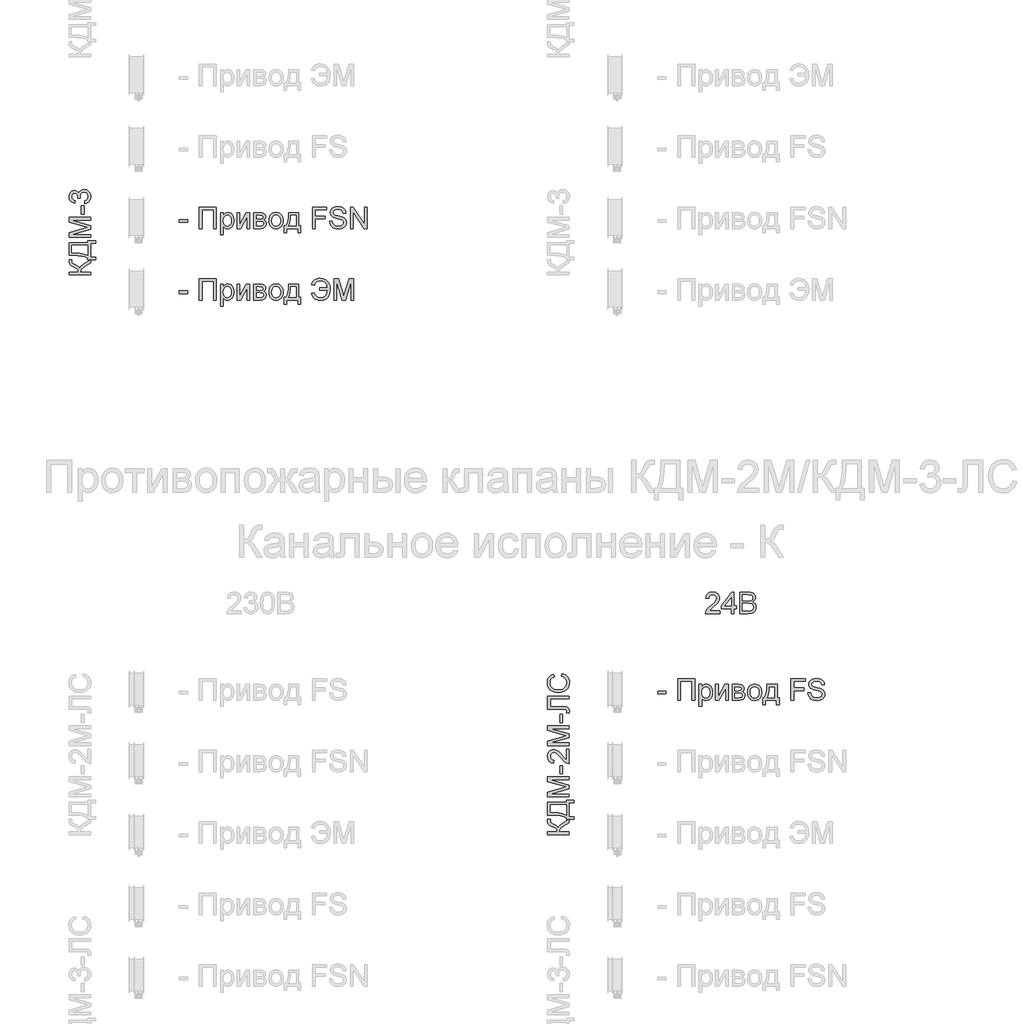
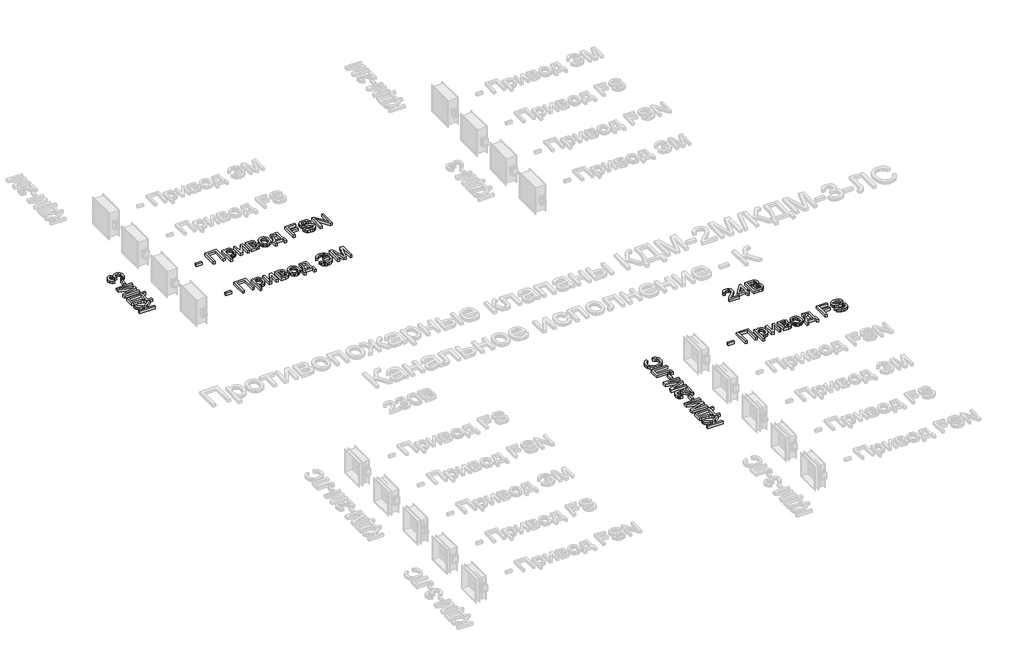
# One storey, part 9 of 23: 6 proxies.
"""IFC4 building model written with IfcOpenShell, lengths in millimetres."""

from ifc_helpers import new_model, si_unit, origin, origin_with_axes, place, context, project, spatial, polyline, outline, extrude, element, save

model = new_model("IFC4")

# Units and contexts
model_context = context("Model", 3, world=origin())
ifc_project = project(units=[si_unit("LENGTHUNIT", "METRE", prefix="MILLI")], contexts=[model_context])

# Site, building, storey
site = spatial("IfcSite", under=ifc_project)
building = spatial("IfcBuilding", under=site)
storey = spatial("IfcBuildingStorey", under=building, Name="Этаж 01", Elevation=0.0)

# Proxies
placement = place(None, origin())
element("IfcBuildingElementProxy", 1, Name="300 мм Arial", ObjectType="300 мм Arial", at=placement, inside=storey, context=model_context, shape_type="SweptSolid", body=[
    extrude(outline(polyline([(2804.7738082, -8434.3206311), (2804.7738082, -8396.6495148), (2922.4960467, -8396.6495148), (2922.4960467, -8434.3206311), (2804.7738082, -8434.3206311)])), origin_with_axes(), (0.0, 0.0, 1.0), 50.0),
    extrude(outline(polyline([(3087.3071805, -8222.4206019), (3322.7516574, -8222.4206019), (3322.7516574, -8523.7895324), (3285.0805411, -8523.7895324), (3285.0805411, -8260.0917182), (3124.9782968, -8260.0917182), (3124.9782968, -8523.7895324), (3087.3071805, -8523.7895324), (3087.3071805, -8222.4206019)])), origin_with_axes(), (0.0, 0.0, 1.0), 50.0),
    extrude(outline(polyline([(3383.9672214, -8608.5495441), (3383.9672214, -8302.4717241), (3421.6383378, -8302.4717241), (3421.6383378, -8339.4070764), (3433.9255964, -8321.1877206), (3447.684383, -8308.173895), (3463.724038, -8300.3655996), (3482.8539017, -8297.7628345), (3508.3297299, -8301.4048663), (3530.6049847, -8312.3309615), (3548.7415671, -8329.8789327), (3561.8013779, -8353.3865922), (3569.6924467, -8381.1432887), (3572.322803, -8411.438371), (3569.3521559, -8443.6556368), (3560.4402145, -8472.469994), (3545.8720875, -8496.4191119), (3525.9328834, -8514.0406595), (3502.7103324, -8524.8839813), (3478.292165, -8528.4984219), (3460.9741201, -8526.0795978), (3445.5138792, -8518.8231254), (3432.2793245, -8507.869439), (3421.6383378, -8494.3589728), (3421.6383378, -8608.5495441), (3383.9672214, -8608.5495441)]), holes=[polyline([(3421.6383378, -8414.8964618), (3425.7126308, -8448.668029), (3437.9355101, -8472.286053), (3455.970925, -8486.1919925), (3477.4828246, -8490.8273056), (3499.3442122, -8486.0264456), (3517.8394795, -8471.6238655), (3530.4486349, -8447.1413187), (3534.6516867, -8412.1005586), (3530.5498024, -8378.5129325), (3518.2441497, -8354.5638146), (3500.236326, -8340.2164168), (3479.027929, -8335.4339508), (3457.7367585, -8340.5199194), (3439.0391561, -8355.7778252), (3425.9885423, -8380.7294215), (3421.6383378, -8414.8964618)])]), origin_with_axes(), (0.0, 0.0, 1.0), 50.0),
    extrude(outline(polyline([(3614.7028088, -8302.4717241), (3652.3739251, -8302.4717241), (3652.3739251, -8471.2559835), (3744.9330351, -8302.4717241), (3793.6406113, -8302.4717241), (3793.6406113, -8523.7895324), (3755.969495, -8523.7895324), (3755.969495, -8356.0353426), (3663.9989962, -8523.7895324), (3614.7028088, -8523.7895324), (3614.7028088, -8302.4717241)])), origin_with_axes(), (0.0, 0.0, 1.0), 50.0),
    extrude(outline(polyline([(3850.1472857, -8302.4717241), (3933.1414638, -8302.4717241), (3959.8221055, -8303.7317199), (3978.6484666, -8307.5117074), (3992.4992238, -8314.6486181), (4004.2530535, -8325.9793836), (4012.2820781, -8340.7406486), (4014.9584196, -8358.1690581), (4013.3397388, -8372.2129533), (4008.4836965, -8384.325468), (4000.3718985, -8394.5617845), (3988.9859507, -8402.9770852), (4002.9286783, -8410.8037746), (4014.296232, -8423.3945359), (4021.856207, -8439.7560876), (4024.3761986, -8458.8951484), (4017.993446, -8487.6083381), (4002.8183137, -8507.8234538), (3978.7956194, -8519.7980127), (3945.8701809, -8523.7895324), (3850.1472857, -8523.7895324), (3850.1472857, -8302.4717241)]), holes=[polyline([(3887.818402, -8486.1184161), (3934.0243806, -8486.1184161), (3959.2059032, -8484.4169618), (3975.0064349, -8479.3125992), (3983.4861149, -8470.0327758), (3986.7050823, -8455.8049397), (3985.0955986, -8446.3779635), (3980.2671474, -8437.6683573), (3972.8543252, -8430.8533433), (3963.4917284, -8427.110144), (3930.3455607, -8424.9028521), (3887.818402, -8424.9028521), (3887.818402, -8486.1184161)]), polyline([(3887.818402, -8387.2317358), (3925.04806, -8387.2317358), (3955.7662065, -8385.3187494), (3970.7022156, -8377.6668039), (3975.6410313, -8371.3392336), (3977.2873033, -8363.8344409), (3974.3994296, -8352.5956459), (3965.7358086, -8345.3667647), (3950.0824297, -8341.4488215), (3926.2252823, -8340.1428404), (3887.818402, -8340.1428404), (3887.818402, -8387.2317358)])]), origin_with_axes(), (0.0, 0.0, 1.0), 50.0),
    extrude(outline(polyline([(4062.047315, -8413.1306282), (4064.0844615, -8384.4680223), (4070.1959011, -8359.7693448), (4080.3816339, -8339.0345959), (4094.6416597, -8322.2637754), (4108.9982546, -8311.5446138), (4124.8447715, -8303.8880698), (4142.1812106, -8299.2941433), (4161.0075717, -8297.7628345), (4181.7906051, -8299.6275364), (4200.5824773, -8305.221642), (4217.3831882, -8314.5451513), (4232.1927377, -8327.5980643), (4244.2799605, -8343.9389227), (4252.9136911, -8363.126268), (4258.0939294, -8385.1601003), (4259.8206756, -8410.0404195), (4256.767255, -8448.0978119), (4247.6069933, -8477.068519), (4232.606605, -8498.7643596), (4212.0328044, -8514.9971527), (4187.5962429, -8525.1231046), (4161.0075717, -8528.4984219), (4139.9210355, -8526.6406178), (4120.9544194, -8521.0672056), (4104.1077233, -8511.7781852), (4089.3809472, -8498.7735567), (4077.4224831, -8482.2740492), (4068.880723, -8462.500392), (4063.755667, -8439.452585), (4062.047315, -8413.1306282)]), holes=[polyline([(4099.7184313, -8413.0570518), (4104.0778329, -8447.1505157), (4117.1560378, -8471.4399245), (4136.8377246, -8485.9804603), (4161.0075717, -8490.8273056), (4185.0670541, -8485.9528692), (4204.7119527, -8471.3295599), (4217.7901576, -8446.7182544), (4222.1495593, -8411.8798294), (4217.7625665, -8378.7796469), (4204.6015881, -8354.821332), (4184.9290984, -8340.2807961), (4161.0075717, -8335.4339508), (4136.8377246, -8340.262402), (4117.1560378, -8354.7477556), (4104.0778329, -8378.981982), (4099.7184313, -8413.0570518)])]), origin_with_axes(), (0.0, 0.0, 1.0), 50.0),
    extrude(outline(polyline([(4335.1629082, -8302.4717241), (4476.4295943, -8302.4717241), (4476.4295943, -8486.1184161), (4504.6829316, -8486.1184161), (4504.6829316, -8585.0050964), (4467.0118152, -8585.0050964), (4467.0118152, -8523.7895324), (4311.6184605, -8523.7895324), (4311.6184605, -8585.0050964), (4273.9473442, -8585.0050964), (4273.9473442, -8486.1184161), (4297.4917919, -8486.1184161), (4314.6075017, -8455.1887373), (4326.5912577, -8414.2710624), (4333.4430598, -8363.3653913), (4335.1629082, -8302.4717241)]), holes=[polyline([(4368.1251349, -8340.1428404), (4365.0349262, -8386.2660455), (4359.2959671, -8425.9697099), (4350.9082576, -8459.2538334), (4339.8717977, -8486.1184161), (4438.758478, -8486.1184161), (4438.758478, -8340.1428404), (4368.1251349, -8340.1428404)])]), origin_with_axes(), (0.0, 0.0, 1.0), 50.0),
    extrude(outline(polyline([(4669.4940654, -8523.7895324), (4669.4940654, -8222.4206019), (4871.9763155, -8222.4206019), (4871.9763155, -8260.0917182), (4707.1651817, -8260.0917182), (4707.1651817, -8349.5606195), (4848.4318678, -8349.5606195), (4848.4318678, -8387.2317358), (4707.1651817, -8387.2317358), (4707.1651817, -8523.7895324), (4669.4940654, -8523.7895324)])), origin_with_axes(), (0.0, 0.0, 1.0), 50.0),
    extrude(outline(polyline([(4909.6474318, -8420.1939625), (4947.3185481, -8420.1939625), (4951.6411616, -8441.0988569), (4959.458654, -8457.901867), (4971.6539421, -8471.2375894), (4989.1099428, -8481.7406203), (5010.4470985, -8488.5556343), (5034.2858518, -8490.8273056), (5055.2735196, -8489.1074573), (5073.6492253, -8483.9479123), (5088.539249, -8475.780932), (5099.0698712, -8465.0387777), (5105.3330621, -8452.7055339), (5107.4207924, -8439.7652847), (5105.857294, -8427.1561293), (5101.1667985, -8416.2576252), (5091.6386549, -8406.9594078), (5075.5622117, -8399.1511124), (5020.7110062, -8384.7669264), (4984.7045559, -8375.2479798), (4961.665946, -8366.1888856), (4942.9131613, -8353.5153509), (4929.6234242, -8338.1562776), (4921.7047642, -8320.4427595), (4919.0652109, -8300.7058905), (4922.3301636, -8278.6421678), (4932.1250217, -8258.0683673), (4948.1922679, -8240.6307607), (4970.2743846, -8227.97562), (4996.7802824, -8220.2776893), (5026.1188715, -8217.7117124), (5057.9038759, -8220.3972509), (5085.7157547, -8228.4538666), (5108.5612266, -8241.7160126), (5125.4470102, -8260.0181418), (5136.1339822, -8282.2198202), (5140.3830192, -8307.1806136), (5102.7119029, -8307.1806136), (5095.7957214, -8284.7030237), (5081.3747472, -8268.4794277), (5058.841975, -8258.6569784), (5027.5903995, -8255.3828287), (4995.60306, -8258.6201902), (4973.658899, -8268.3322749), (4960.9669702, -8282.6244904), (4956.7363272, -8299.6022445), (4959.7345655, -8314.078401), (4968.7292803, -8325.7218662), (4989.9928596, -8336.1329266), (5030.2391499, -8346.7647163), (5071.7730271, -8356.8630771), (5096.8993674, -8365.6738508), (5118.3744789, -8379.340667), (5133.3564731, -8396.2080564), (5142.1580498, -8416.0920783), (5145.0919088, -8438.8087915), (5141.7165914, -8462.0313424), (5131.5906395, -8483.8743359), (5115.1279202, -8502.6731058), (5092.7423008, -8516.7629863), (5065.8225358, -8525.564563), (5035.7573798, -8528.4984219), (4998.8496186, -8525.3346367), (4968.4717629, -8515.8432813), (4944.2743246, -8499.9875673), (4925.907816, -8477.7307066), (4914.1171981, -8450.6178035), (4909.6474318, -8420.1939625)])), origin_with_axes(), (0.0, 0.0, 1.0), 50.0),
    extrude(outline(polyline([(5201.5985832, -8523.7895324), (5201.5985832, -8222.4206019), (5241.9184499, -8222.4206019), (5399.3719438, -8461.1760168), (5399.3719438, -8222.4206019), (5437.0430601, -8222.4206019), (5437.0430601, -8523.7895324), (5396.7231935, -8523.7895324), (5239.2696995, -8284.9605411), (5239.2696995, -8523.7895324), (5201.5985832, -8523.7895324)])), origin_with_axes(), (0.0, 0.0, 1.0), 50.0),
])
element("IfcBuildingElementProxy", 2, Name="300 мм Arial", ObjectType="300 мм Arial", at=placement, inside=storey, context=model_context, shape_type="SweptSolid", body=[
    extrude(outline(polyline([(2804.7738082, -9434.3206311), (2804.7738082, -9396.6495148), (2922.4960467, -9396.6495148), (2922.4960467, -9434.3206311), (2804.7738082, -9434.3206311)])), origin_with_axes(), (0.0, 0.0, 1.0), 50.0),
    extrude(outline(polyline([(3087.3071805, -9222.4206019), (3322.7516574, -9222.4206019), (3322.7516574, -9523.7895324), (3285.0805411, -9523.7895324), (3285.0805411, -9260.0917182), (3124.9782968, -9260.0917182), (3124.9782968, -9523.7895324), (3087.3071805, -9523.7895324), (3087.3071805, -9222.4206019)])), origin_with_axes(), (0.0, 0.0, 1.0), 50.0),
    extrude(outline(polyline([(3383.9672214, -9608.5495441), (3383.9672214, -9302.4717241), (3421.6383378, -9302.4717241), (3421.6383378, -9339.4070764), (3433.9255964, -9321.1877206), (3447.684383, -9308.173895), (3463.724038, -9300.3655996), (3482.8539017, -9297.7628345), (3508.3297299, -9301.4048663), (3530.6049847, -9312.3309615), (3548.7415671, -9329.8789327), (3561.8013779, -9353.3865922), (3569.6924467, -9381.1432887), (3572.322803, -9411.438371), (3569.3521559, -9443.6556368), (3560.4402145, -9472.469994), (3545.8720875, -9496.4191119), (3525.9328834, -9514.0406595), (3502.7103324, -9524.8839813), (3478.292165, -9528.4984219), (3460.9741201, -9526.0795978), (3445.5138792, -9518.8231254), (3432.2793245, -9507.869439), (3421.6383378, -9494.3589728), (3421.6383378, -9608.5495441), (3383.9672214, -9608.5495441)]), holes=[polyline([(3421.6383378, -9414.8964618), (3425.7126308, -9448.668029), (3437.9355101, -9472.286053), (3455.970925, -9486.1919925), (3477.4828246, -9490.8273056), (3499.3442122, -9486.0264456), (3517.8394795, -9471.6238655), (3530.4486349, -9447.1413187), (3534.6516867, -9412.1005586), (3530.5498024, -9378.5129325), (3518.2441497, -9354.5638146), (3500.236326, -9340.2164168), (3479.027929, -9335.4339508), (3457.7367585, -9340.5199194), (3439.0391561, -9355.7778252), (3425.9885423, -9380.7294215), (3421.6383378, -9414.8964618)])]), origin_with_axes(), (0.0, 0.0, 1.0), 50.0),
    extrude(outline(polyline([(3614.7028088, -9302.4717241), (3652.3739251, -9302.4717241), (3652.3739251, -9471.2559835), (3744.9330351, -9302.4717241), (3793.6406113, -9302.4717241), (3793.6406113, -9523.7895324), (3755.969495, -9523.7895324), (3755.969495, -9356.0353426), (3663.9989962, -9523.7895324), (3614.7028088, -9523.7895324), (3614.7028088, -9302.4717241)])), origin_with_axes(), (0.0, 0.0, 1.0), 50.0),
    extrude(outline(polyline([(3850.1472857, -9302.4717241), (3933.1414638, -9302.4717241), (3959.8221055, -9303.7317199), (3978.6484666, -9307.5117074), (3992.4992238, -9314.6486181), (4004.2530535, -9325.9793836), (4012.2820781, -9340.7406486), (4014.9584196, -9358.1690581), (4013.3397388, -9372.2129533), (4008.4836965, -9384.325468), (4000.3718985, -9394.5617845), (3988.9859507, -9402.9770852), (4002.9286783, -9410.8037746), (4014.296232, -9423.3945359), (4021.856207, -9439.7560876), (4024.3761986, -9458.8951484), (4017.993446, -9487.6083381), (4002.8183137, -9507.8234538), (3978.7956194, -9519.7980127), (3945.8701809, -9523.7895324), (3850.1472857, -9523.7895324), (3850.1472857, -9302.4717241)]), holes=[polyline([(3887.818402, -9486.1184161), (3934.0243806, -9486.1184161), (3959.2059032, -9484.4169618), (3975.0064349, -9479.3125992), (3983.4861149, -9470.0327758), (3986.7050823, -9455.8049397), (3985.0955986, -9446.3779635), (3980.2671474, -9437.6683573), (3972.8543252, -9430.8533433), (3963.4917284, -9427.110144), (3930.3455607, -9424.9028521), (3887.818402, -9424.9028521), (3887.818402, -9486.1184161)]), polyline([(3887.818402, -9387.2317358), (3925.04806, -9387.2317358), (3955.7662065, -9385.3187494), (3970.7022156, -9377.6668039), (3975.6410313, -9371.3392336), (3977.2873033, -9363.8344409), (3974.3994296, -9352.5956459), (3965.7358086, -9345.3667647), (3950.0824297, -9341.4488215), (3926.2252823, -9340.1428404), (3887.818402, -9340.1428404), (3887.818402, -9387.2317358)])]), origin_with_axes(), (0.0, 0.0, 1.0), 50.0),
    extrude(outline(polyline([(4062.047315, -9413.1306282), (4064.0844615, -9384.4680223), (4070.1959011, -9359.7693448), (4080.3816339, -9339.0345959), (4094.6416597, -9322.2637754), (4108.9982546, -9311.5446138), (4124.8447715, -9303.8880698), (4142.1812106, -9299.2941433), (4161.0075717, -9297.7628345), (4181.7906051, -9299.6275364), (4200.5824773, -9305.221642), (4217.3831882, -9314.5451513), (4232.1927377, -9327.5980643), (4244.2799605, -9343.9389227), (4252.9136911, -9363.126268), (4258.0939294, -9385.1601003), (4259.8206756, -9410.0404195), (4256.767255, -9448.0978119), (4247.6069933, -9477.068519), (4232.606605, -9498.7643596), (4212.0328044, -9514.9971527), (4187.5962429, -9525.1231046), (4161.0075717, -9528.4984219), (4139.9210355, -9526.6406178), (4120.9544194, -9521.0672056), (4104.1077233, -9511.7781852), (4089.3809472, -9498.7735567), (4077.4224831, -9482.2740492), (4068.880723, -9462.500392), (4063.755667, -9439.452585), (4062.047315, -9413.1306282)]), holes=[polyline([(4099.7184313, -9413.0570518), (4104.0778329, -9447.1505157), (4117.1560378, -9471.4399245), (4136.8377246, -9485.9804603), (4161.0075717, -9490.8273056), (4185.0670541, -9485.9528692), (4204.7119527, -9471.3295599), (4217.7901576, -9446.7182544), (4222.1495593, -9411.8798294), (4217.7625665, -9378.7796469), (4204.6015881, -9354.821332), (4184.9290984, -9340.2807961), (4161.0075717, -9335.4339508), (4136.8377246, -9340.262402), (4117.1560378, -9354.7477556), (4104.0778329, -9378.981982), (4099.7184313, -9413.0570518)])]), origin_with_axes(), (0.0, 0.0, 1.0), 50.0),
    extrude(outline(polyline([(4335.1629082, -9302.4717241), (4476.4295943, -9302.4717241), (4476.4295943, -9486.1184161), (4504.6829316, -9486.1184161), (4504.6829316, -9585.0050964), (4467.0118152, -9585.0050964), (4467.0118152, -9523.7895324), (4311.6184605, -9523.7895324), (4311.6184605, -9585.0050964), (4273.9473442, -9585.0050964), (4273.9473442, -9486.1184161), (4297.4917919, -9486.1184161), (4314.6075017, -9455.1887373), (4326.5912577, -9414.2710624), (4333.4430598, -9363.3653913), (4335.1629082, -9302.4717241)]), holes=[polyline([(4368.1251349, -9340.1428404), (4365.0349262, -9386.2660455), (4359.2959671, -9425.9697099), (4350.9082576, -9459.2538334), (4339.8717977, -9486.1184161), (4438.758478, -9486.1184161), (4438.758478, -9340.1428404), (4368.1251349, -9340.1428404)])]), origin_with_axes(), (0.0, 0.0, 1.0), 50.0),
    extrude(outline(polyline([(4768.3807457, -9349.5606195), (4881.3940946, -9349.5606195), (4878.6947605, -9329.0121108), (4873.0983556, -9310.7030837), (4864.6048801, -9294.6335383), (4853.2143338, -9280.8034746), (4839.1520445, -9269.681942), (4822.64334, -9261.7379902), (4803.6882202, -9256.9716191), (4782.2866851, -9255.3828287), (4751.8674426, -9259.2088014), (4727.6378147, -9270.6867197), (4709.5978014, -9289.8165834), (4697.7474026, -9316.5983927), (4660.0762863, -9307.1806136), (4666.8637091, -9287.2873947), (4676.1895177, -9269.6934383), (4688.053712, -9254.3987444), (4702.4562922, -9241.4033129), (4719.0799598, -9231.0382377), (4737.6074168, -9223.6346125), (4758.0386631, -9219.1924374), (4780.3736987, -9217.7117124), (4821.4477235, -9223.1471689), (4856.3781189, -9239.4535383), (4884.1256184, -9264.2119966), (4903.6509553, -9295.0037196), (4915.211647, -9330.6054997), (4919.0652109, -9369.7941292), (4917.8925871, -9402.0136942), (4912.0938471, -9431.5707132), (4901.6689911, -9458.4651863), (4886.6180189, -9482.6971135), (4866.9777189, -9502.7351859), (4842.7848792, -9517.0480948), (4814.0394998, -9525.6358401), (4780.7415807, -9528.4984219), (4757.0545788, -9526.9533175), (4735.6576422, -9522.3180044), (4716.5507711, -9514.5924825), (4699.7339654, -9503.7767518), (4685.2072251, -9489.8708124), (4672.9705502, -9472.8746642), (4663.0239408, -9452.7883073), (4655.3673968, -9429.6117416), (4693.0385131, -9420.1939625), (4705.7672301, -9451.0960501), (4725.3385523, -9473.1689698), (4751.7524795, -9486.4127217), (4785.0090119, -9490.8273056), (4804.7182898, -9489.0936617), (4822.5697636, -9483.89273), (4838.5634333, -9475.2245105), (4852.699299, -9463.0890032), (4864.3979464, -9447.9460605), (4873.0799615, -9430.2555351), (4878.7453442, -9410.0174268), (4881.3940946, -9387.2317358), (4768.3807457, -9387.2317358), (4768.3807457, -9349.5606195)])), origin_with_axes(), (0.0, 0.0, 1.0), 50.0),
    extrude(outline(polyline([(4970.8629958, -9523.7895324), (4970.8629958, -9222.4206019), (5035.6838034, -9222.4206019), (5097.3408258, -9434.8356659), (5109.7752372, -9479.2022346), (5123.2397182, -9431.156846), (5183.866671, -9222.4206019), (5248.6874786, -9222.4206019), (5248.6874786, -9523.7895324), (5211.0163623, -9523.7895324), (5211.0163623, -9260.0917182), (5135.3062477, -9523.7895324), (5084.2442268, -9523.7895324), (5008.5341121, -9260.0917182), (5008.5341121, -9523.7895324), (4970.8629958, -9523.7895324)])), origin_with_axes(), (0.0, 0.0, 1.0), 50.0),
])
element("IfcBuildingElementProxy", 3, Name="300 мм Arial", ObjectType="300 мм Arial", at=placement, inside=storey, context=model_context, shape_type="SweptSolid", body=[
    extrude(outline(polyline([(1262.355345, -9172.3550656), (1262.355345, -9134.6839493), (1394.2042521, -9134.6839493), (1391.7118516, -9109.1805299), (1384.23465, -9092.5614608), (1366.6406936, -9079.1245709), (1333.7980285, -9063.1676894), (1291.6755401, -9042.3823567), (1280.2620012, -9032.3575723), (1270.8166309, -9018.837909), (1264.4706665, -9002.7890569), (1262.355345, -8985.1767064), (1262.7968034, -8960.4550363), (1300.4679197, -8960.4550363), (1300.2471905, -8968.7691694), (1300.0264613, -8977.0833025), (1302.2889356, -8994.3369681), (1309.0763584, -9006.5138621), (1323.3317857, -9016.998499), (1347.8511207, -9028.8810874), (1378.3853263, -9043.4584115), (1395.0871689, -9055.5525321), (1410.6853655, -9081.5617892), (1416.8933742, -9066.9706695), (1427.7183019, -9052.4807174), (1463.2189144, -9023.8043159), (1563.7242755, -8960.4550363), (1563.7242755, -9004.1594174), (1478.817111, -9057.7230359), (1451.5846463, -9078.407201), (1434.4873306, -9095.4309404), (1425.4650246, -9112.8409558), (1422.4575893, -9134.6839493), (1563.7242755, -9134.6839493), (1563.7242755, -9172.3550656), (1262.355345, -9172.3550656)])), origin_with_axes(), (0.0, 0.0, 1.0), 50.0),
    extrude(outline(polyline([(1262.355345, -8899.2394723), (1262.355345, -8720.3016699), (1526.0531592, -8720.3016699), (1526.0531592, -8692.0483327), (1634.3576186, -8692.0483327), (1634.3576186, -8729.719449), (1563.7242755, -8729.719449), (1563.7242755, -8922.78392), (1634.3576186, -8922.78392), (1634.3576186, -8960.4550363), (1563.7242755, -8960.4550363), (1526.0531592, -8960.4550363), (1526.0531592, -8936.9105887), (1491.8815204, -8920.4294753), (1443.8131392, -8908.6572514), (1381.8480156, -8901.5939171), (1305.9861497, -8899.2394723), (1262.355345, -8899.2394723)]), holes=[polyline([(1300.0264613, -8757.9727862), (1300.0264613, -8861.568356), (1315.1831995, -8861.568356), (1418.4108874, -8869.2203015), (1478.0629529, -8880.551067), (1526.0531592, -8899.2394723), (1526.0531592, -8757.9727862), (1300.0264613, -8757.9727862)])]), origin_with_axes(), (0.0, 0.0, 1.0), 50.0),
    extrude(outline(polyline([(1563.7242755, -8644.9594373), (1262.355345, -8644.9594373), (1262.355345, -8580.1386297), (1474.7704091, -8518.4816073), (1519.1369777, -8506.0471959), (1471.0915891, -8492.5827149), (1262.355345, -8431.9557621), (1262.355345, -8367.1349545), (1563.7242755, -8367.1349545), (1563.7242755, -8404.8060708), (1300.0264613, -8404.8060708), (1563.7242755, -8480.5161854), (1563.7242755, -8531.5782064), (1300.0264613, -8607.288321), (1563.7242755, -8607.288321), (1563.7242755, -8644.9594373)])), origin_with_axes(), (0.0, 0.0, 1.0), 50.0),
    extrude(outline(polyline([(1474.2553743, -8324.7549487), (1436.584258, -8324.7549487), (1436.584258, -8207.0327102), (1474.2553743, -8207.0327102), (1474.2553743, -8324.7549487)])), origin_with_axes(), (0.0, 0.0, 1.0), 50.0),
    extrude(outline(polyline([(1483.6731533, -8174.0704835), (1478.9642638, -8136.3993671), (1502.6374702, -8127.9656724), (1518.6219429, -8115.6140344), (1527.7270223, -8098.7374479), (1530.7620487, -8076.7289075), (1526.5865881, -8050.9035915), (1514.0602061, -8030.9643873), (1495.3718008, -8018.2172762), (1472.7102699, -8013.9682392), (1451.1983702, -8018.180488), (1433.7515666, -8030.8172345), (1422.1908749, -8049.9470983), (1418.337311, -8073.6386988), (1422.4575893, -8100.052626), (1384.786473, -8095.8587713), (1385.2279314, -8089.8255066), (1382.5239988, -8067.2559462), (1374.4122008, -8047.0776187), (1360.6902023, -8032.8405855), (1341.1556684, -8028.0949078), (1324.8860872, -8031.5346044), (1311.6883206, -8041.8536944), (1302.9419262, -8057.5990438), (1300.0264613, -8077.3175187), (1302.9695173, -8097.0727819), (1311.7986852, -8113.2228015), (1326.513965, -8125.0134194), (1347.1153567, -8131.6904776), (1342.4064672, -8169.3615939), (1308.5797177, -8158.2699518), (1283.3246188, -8138.5330827), (1267.5976635, -8111.5305443), (1262.355345, -8078.6418939), (1264.9397161, -8054.9594905), (1272.6928291, -8033.2084675), (1284.9249054, -8014.86955), (1300.9461663, -8001.4234631), (1319.4046454, -7993.1737094), (1338.9483764, -7990.4237915), (1357.1585352, -7993.0357536), (1373.6764368, -8000.8716401), (1387.7479231, -8013.8210864), (1398.6188361, -8031.7737277), (1408.1469797, -8008.1924918), (1424.3705757, -7990.7180971), (1446.4067072, -7979.9023664), (1473.3724575, -7976.2971228), (1492.4839271, -7978.0997446), (1510.0870806, -7983.50761), (1526.1819179, -7992.5207188), (1540.768439, -8005.1390713), (1552.8717566, -8020.5119401), (1561.5169835, -8037.7885983), (1566.7041196, -8056.9690459), (1568.433165, -8078.0532827), (1566.9570385, -8097.1095701), (1562.528659, -8114.4736002), (1555.1480265, -8130.1453732), (1544.8151409, -8144.124889), (1532.1370077, -8155.8465291), (1517.720632, -8164.7446749), (1501.5660139, -8170.8193263), (1483.6731533, -8174.0704835)])), origin_with_axes(), (0.0, 0.0, 1.0), 50.0),
])
element("IfcBuildingElementProxy", 4, Name="300 мм Arial", ObjectType="300 мм Arial", at=placement, inside=storey, context=model_context, shape_type="SweptSolid", body=[
    extrude(outline(polyline([(9504.7738082, -15034.3206311), (9504.7738082, -14996.6495148), (9622.4960467, -14996.6495148), (9622.4960467, -15034.3206311), (9504.7738082, -15034.3206311)])), origin_with_axes(), (0.0, 0.0, 1.0), 50.0),
    extrude(outline(polyline([(9787.3071805, -14822.4206019), (10022.7516574, -14822.4206019), (10022.7516574, -15123.7895324), (9985.0805411, -15123.7895324), (9985.0805411, -14860.0917182), (9824.9782968, -14860.0917182), (9824.9782968, -15123.7895324), (9787.3071805, -15123.7895324), (9787.3071805, -14822.4206019)])), origin_with_axes(), (0.0, 0.0, 1.0), 50.0),
    extrude(outline(polyline([(10083.9672214, -15208.5495441), (10083.9672214, -14902.4717241), (10121.6383378, -14902.4717241), (10121.6383378, -14939.4070764), (10133.9255964, -14921.1877206), (10147.684383, -14908.173895), (10163.724038, -14900.3655996), (10182.8539017, -14897.7628345), (10208.3297299, -14901.4048663), (10230.6049847, -14912.3309615), (10248.7415671, -14929.8789327), (10261.8013779, -14953.3865922), (10269.6924467, -14981.1432887), (10272.322803, -15011.438371), (10269.3521559, -15043.6556368), (10260.4402145, -15072.469994), (10245.8720875, -15096.4191119), (10225.9328834, -15114.0406595), (10202.7103324, -15124.8839813), (10178.292165, -15128.4984219), (10160.9741201, -15126.0795978), (10145.5138792, -15118.8231254), (10132.2793245, -15107.869439), (10121.6383378, -15094.3589728), (10121.6383378, -15208.5495441), (10083.9672214, -15208.5495441)]), holes=[polyline([(10121.6383378, -15014.8964618), (10125.7126308, -15048.668029), (10137.9355101, -15072.286053), (10155.970925, -15086.1919925), (10177.4828246, -15090.8273056), (10199.3442122, -15086.0264456), (10217.8394795, -15071.6238655), (10230.4486349, -15047.1413187), (10234.6516867, -15012.1005586), (10230.5498024, -14978.5129325), (10218.2441497, -14954.5638146), (10200.236326, -14940.2164168), (10179.027929, -14935.4339508), (10157.7367585, -14940.5199194), (10139.0391561, -14955.7778252), (10125.9885423, -14980.7294215), (10121.6383378, -15014.8964618)])]), origin_with_axes(), (0.0, 0.0, 1.0), 50.0),
    extrude(outline(polyline([(10314.7028088, -14902.4717241), (10352.3739251, -14902.4717241), (10352.3739251, -15071.2559835), (10444.9330351, -14902.4717241), (10493.6406113, -14902.4717241), (10493.6406113, -15123.7895324), (10455.969495, -15123.7895324), (10455.969495, -14956.0353426), (10363.9989962, -15123.7895324), (10314.7028088, -15123.7895324), (10314.7028088, -14902.4717241)])), origin_with_axes(), (0.0, 0.0, 1.0), 50.0),
    extrude(outline(polyline([(10550.1472857, -14902.4717241), (10633.1414638, -14902.4717241), (10659.8221055, -14903.7317199), (10678.6484666, -14907.5117074), (10692.4992238, -14914.6486181), (10704.2530535, -14925.9793836), (10712.2820781, -14940.7406486), (10714.9584196, -14958.1690581), (10713.3397388, -14972.2129533), (10708.4836965, -14984.325468), (10700.3718985, -14994.5617845), (10688.9859507, -15002.9770852), (10702.9286783, -15010.8037746), (10714.296232, -15023.3945359), (10721.856207, -15039.7560876), (10724.3761986, -15058.8951484), (10717.993446, -15087.6083381), (10702.8183137, -15107.8234538), (10678.7956194, -15119.7980127), (10645.8701809, -15123.7895324), (10550.1472857, -15123.7895324), (10550.1472857, -14902.4717241)]), holes=[polyline([(10587.818402, -15086.1184161), (10634.0243806, -15086.1184161), (10659.2059032, -15084.4169618), (10675.0064349, -15079.3125992), (10683.4861149, -15070.0327758), (10686.7050823, -15055.8049397), (10685.0955986, -15046.3779635), (10680.2671474, -15037.6683573), (10672.8543252, -15030.8533433), (10663.4917284, -15027.110144), (10630.3455607, -15024.9028521), (10587.818402, -15024.9028521), (10587.818402, -15086.1184161)]), polyline([(10587.818402, -14987.2317358), (10625.04806, -14987.2317358), (10655.7662065, -14985.3187494), (10670.7022156, -14977.6668039), (10675.6410313, -14971.3392336), (10677.2873033, -14963.8344409), (10674.3994296, -14952.5956459), (10665.7358086, -14945.3667647), (10650.0824297, -14941.4488215), (10626.2252823, -14940.1428404), (10587.818402, -14940.1428404), (10587.818402, -14987.2317358)])]), origin_with_axes(), (0.0, 0.0, 1.0), 50.0),
    extrude(outline(polyline([(10762.047315, -15013.1306282), (10764.0844615, -14984.4680223), (10770.1959011, -14959.7693448), (10780.3816339, -14939.0345959), (10794.6416597, -14922.2637754), (10808.9982546, -14911.5446138), (10824.8447715, -14903.8880698), (10842.1812106, -14899.2941433), (10861.0075717, -14897.7628345), (10881.7906051, -14899.6275364), (10900.5824773, -14905.221642), (10917.3831882, -14914.5451513), (10932.1927377, -14927.5980643), (10944.2799605, -14943.9389227), (10952.9136911, -14963.126268), (10958.0939294, -14985.1601003), (10959.8206756, -15010.0404195), (10956.767255, -15048.0978119), (10947.6069933, -15077.068519), (10932.606605, -15098.7643596), (10912.0328044, -15114.9971527), (10887.5962429, -15125.1231046), (10861.0075717, -15128.4984219), (10839.9210355, -15126.6406178), (10820.9544194, -15121.0672056), (10804.1077233, -15111.7781852), (10789.3809472, -15098.7735567), (10777.4224831, -15082.2740492), (10768.880723, -15062.500392), (10763.755667, -15039.452585), (10762.047315, -15013.1306282)]), holes=[polyline([(10799.7184313, -15013.0570518), (10804.0778329, -15047.1505157), (10817.1560378, -15071.4399245), (10836.8377246, -15085.9804603), (10861.0075717, -15090.8273056), (10885.0670541, -15085.9528692), (10904.7119527, -15071.3295599), (10917.7901576, -15046.7182544), (10922.1495593, -15011.8798294), (10917.7625665, -14978.7796469), (10904.6015881, -14954.821332), (10884.9290984, -14940.2807961), (10861.0075717, -14935.4339508), (10836.8377246, -14940.262402), (10817.1560378, -14954.7477556), (10804.0778329, -14978.981982), (10799.7184313, -15013.0570518)])]), origin_with_axes(), (0.0, 0.0, 1.0), 50.0),
    extrude(outline(polyline([(11035.1629082, -14902.4717241), (11176.4295943, -14902.4717241), (11176.4295943, -15086.1184161), (11204.6829316, -15086.1184161), (11204.6829316, -15185.0050964), (11167.0118152, -15185.0050964), (11167.0118152, -15123.7895324), (11011.6184605, -15123.7895324), (11011.6184605, -15185.0050964), (10973.9473442, -15185.0050964), (10973.9473442, -15086.1184161), (10997.4917919, -15086.1184161), (11014.6075017, -15055.1887373), (11026.5912577, -15014.2710624), (11033.4430598, -14963.3653913), (11035.1629082, -14902.4717241)]), holes=[polyline([(11068.1251349, -14940.1428404), (11065.0349262, -14986.2660455), (11059.2959671, -15025.9697099), (11050.9082576, -15059.2538334), (11039.8717977, -15086.1184161), (11138.758478, -15086.1184161), (11138.758478, -14940.1428404), (11068.1251349, -14940.1428404)])]), origin_with_axes(), (0.0, 0.0, 1.0), 50.0),
    extrude(outline(polyline([(11369.4940654, -15123.7895324), (11369.4940654, -14822.4206019), (11571.9763155, -14822.4206019), (11571.9763155, -14860.0917182), (11407.1651817, -14860.0917182), (11407.1651817, -14949.5606195), (11548.4318678, -14949.5606195), (11548.4318678, -14987.2317358), (11407.1651817, -14987.2317358), (11407.1651817, -15123.7895324), (11369.4940654, -15123.7895324)])), origin_with_axes(), (0.0, 0.0, 1.0), 50.0),
    extrude(outline(polyline([(11609.6474318, -15020.1939625), (11647.3185481, -15020.1939625), (11651.6411616, -15041.0988569), (11659.458654, -15057.901867), (11671.6539421, -15071.2375894), (11689.1099428, -15081.7406203), (11710.4470985, -15088.5556343), (11734.2858518, -15090.8273056), (11755.2735196, -15089.1074573), (11773.6492253, -15083.9479123), (11788.539249, -15075.780932), (11799.0698712, -15065.0387777), (11805.3330621, -15052.7055339), (11807.4207924, -15039.7652847), (11805.857294, -15027.1561293), (11801.1667985, -15016.2576252), (11791.6386549, -15006.9594078), (11775.5622117, -14999.1511124), (11720.7110062, -14984.7669264), (11684.7045559, -14975.2479798), (11661.665946, -14966.1888856), (11642.9131613, -14953.5153509), (11629.6234242, -14938.1562776), (11621.7047642, -14920.4427595), (11619.0652109, -14900.7058905), (11622.3301636, -14878.6421678), (11632.1250217, -14858.0683673), (11648.1922679, -14840.6307607), (11670.2743846, -14827.97562), (11696.7802824, -14820.2776893), (11726.1188715, -14817.7117124), (11757.9038759, -14820.3972509), (11785.7157547, -14828.4538666), (11808.5612266, -14841.7160126), (11825.4470102, -14860.0181418), (11836.1339822, -14882.2198202), (11840.3830192, -14907.1806136), (11802.7119029, -14907.1806136), (11795.7957214, -14884.7030237), (11781.3747472, -14868.4794277), (11758.841975, -14858.6569784), (11727.5903995, -14855.3828287), (11695.60306, -14858.6201902), (11673.658899, -14868.3322749), (11660.9669702, -14882.6244904), (11656.7363272, -14899.6022445), (11659.7345655, -14914.078401), (11668.7292803, -14925.7218662), (11689.9928596, -14936.1329266), (11730.2391499, -14946.7647163), (11771.7730271, -14956.8630771), (11796.8993674, -14965.6738508), (11818.3744789, -14979.340667), (11833.3564731, -14996.2080564), (11842.1580498, -15016.0920783), (11845.0919088, -15038.8087915), (11841.7165914, -15062.0313424), (11831.5906395, -15083.8743359), (11815.1279202, -15102.6731058), (11792.7423008, -15116.7629863), (11765.8225358, -15125.564563), (11735.7573798, -15128.4984219), (11698.8496186, -15125.3346367), (11668.4717629, -15115.8432813), (11644.2743246, -15099.9875673), (11625.907816, -15077.7307066), (11614.1171981, -15050.6178035), (11609.6474318, -15020.1939625)])), origin_with_axes(), (0.0, 0.0, 1.0), 50.0),
])
element("IfcBuildingElementProxy", 5, Name="300 мм Arial", ObjectType="300 мм Arial", at=placement, inside=storey, context=model_context, shape_type="SweptSolid", body=[
    extrude(outline(polyline([(7962.355345, -17002.4984014), (7962.355345, -16964.8272851), (8094.2042521, -16964.8272851), (8091.7118516, -16939.3238658), (8084.23465, -16922.7047967), (8066.6406936, -16909.2679068), (8033.7980285, -16893.3110252), (7991.6755401, -16872.5256925), (7980.2620012, -16862.5009082), (7970.8166309, -16848.9812448), (7964.4706665, -16832.9323928), (7962.355345, -16815.3200423), (7962.7968034, -16790.5983722), (8000.4679197, -16790.5983722), (8000.2471905, -16798.9125053), (8000.0264613, -16807.2266384), (8002.2889356, -16824.4803039), (8009.0763584, -16836.657198), (8023.3317857, -16847.1418349), (8047.8511207, -16859.0244233), (8078.3853263, -16873.6017474), (8095.0871689, -16885.6958679), (8110.6853655, -16911.705125), (8116.8933742, -16897.1140054), (8127.7183019, -16882.6240533), (8163.2189144, -16853.9476518), (8263.7242755, -16790.5983722), (8263.7242755, -16834.3027532), (8178.817111, -16887.8663717), (8151.5846463, -16908.5505369), (8134.4873306, -16925.5742762), (8125.4650246, -16942.9842916), (8122.4575893, -16964.8272851), (8263.7242755, -16964.8272851), (8263.7242755, -17002.4984014), (7962.355345, -17002.4984014)])), origin_with_axes(), (0.0, 0.0, 1.0), 50.0),
    extrude(outline(polyline([(7962.355345, -16729.3828082), (7962.355345, -16550.4450057), (8226.0531592, -16550.4450057), (8226.0531592, -16522.1916685), (8334.3576186, -16522.1916685), (8334.3576186, -16559.8627848), (8263.7242755, -16559.8627848), (8263.7242755, -16752.9272559), (8334.3576186, -16752.9272559), (8334.3576186, -16790.5983722), (8263.7242755, -16790.5983722), (8226.0531592, -16790.5983722), (8226.0531592, -16767.0539245), (8191.8815204, -16750.5728111), (8143.8131392, -16738.8005873), (8081.8480156, -16731.737253), (8005.9861497, -16729.3828082), (7962.355345, -16729.3828082)]), holes=[polyline([(8000.0264613, -16588.116122), (8000.0264613, -16691.7116919), (8015.1831995, -16691.7116919), (8118.4108874, -16699.3636374), (8178.0629529, -16710.6944028), (8226.0531592, -16729.3828082), (8226.0531592, -16588.116122), (8000.0264613, -16588.116122)])]), origin_with_axes(), (0.0, 0.0, 1.0), 50.0),
    extrude(outline(polyline([(8263.7242755, -16475.1027731), (7962.355345, -16475.1027731), (7962.355345, -16410.2819656), (8174.7704091, -16348.6249432), (8219.1369777, -16336.1905318), (8171.0915891, -16322.7260507), (7962.355345, -16262.0990979), (7962.355345, -16197.2782904), (8263.7242755, -16197.2782904), (8263.7242755, -16234.9494067), (8000.0264613, -16234.9494067), (8263.7242755, -16310.6595213), (8263.7242755, -16361.7215422), (8000.0264613, -16437.4316568), (8263.7242755, -16437.4316568), (8263.7242755, -16475.1027731)])), origin_with_axes(), (0.0, 0.0, 1.0), 50.0),
    extrude(outline(polyline([(8174.2553743, -16154.8982845), (8136.584258, -16154.8982845), (8136.584258, -16037.1760461), (8174.2553743, -16037.1760461), (8174.2553743, -16154.8982845)])), origin_with_axes(), (0.0, 0.0, 1.0), 50.0),
    extrude(outline(polyline([(8226.0531592, -15811.1493482), (8263.7242755, -15811.1493482), (8263.7242755, -16008.9227088), (8237.7518066, -16004.8760069), (8217.4539175, -15995.5869865), (8197.7630338, -15981.9937468), (8177.152445, -15962.3304542), (8154.0954409, -15934.831275), (8117.9878231, -15894.1803145), (8091.3347725, -15869.7897383), (8069.7033112, -15857.5944501), (8048.6604611, -15853.5293541), (8029.7973118, -15857.3645239), (8014.1163418, -15868.8700333), (8003.5489314, -15886.5559602), (8000.0264613, -15908.9323826), (8003.466158, -15932.430845), (8013.785248, -15950.686989), (8030.1743908, -15962.4684099), (8051.8242463, -15966.542703), (8047.1153567, -16004.2138193), (8010.6766451, -15995.0811488), (7996.1407078, -15986.5347902), (7984.0603828, -15975.3350827), (7974.5644288, -15961.7395437), (7967.7816045, -15946.0056906), (7962.355345, -15908.1230422), (7963.8636612, -15887.9332184), (7968.3886098, -15869.9644822), (7975.9301907, -15854.2168336), (7986.4884039, -15840.6902724), (7999.2815003, -15829.8262573), (8013.5277306, -15822.0662464), (8029.2270947, -15817.4102399), (8046.3795927, -15815.8582378), (8064.3966134, -15817.5321009), (8082.1009345, -15822.5536901), (8100.1087581, -15831.4656314), (8119.0362868, -15844.8105508), (8141.6334383, -15866.0833272), (8170.6501307, -15898.7788395), (8206.8865072, -15942.1153385), (8226.0531592, -15959.1114867), (8226.0531592, -15811.1493482)])), origin_with_axes(), (0.0, 0.0, 1.0), 50.0),
    extrude(outline(polyline([(8263.7242755, -15759.3515633), (7962.355345, -15759.3515633), (7962.355345, -15694.5307558), (8174.7704091, -15632.8737334), (8219.1369777, -15620.4393219), (8171.0915891, -15606.9748409), (7962.355345, -15546.3478881), (7962.355345, -15481.5270806), (8263.7242755, -15481.5270806), (8263.7242755, -15519.1981969), (8000.0264613, -15519.1981969), (8263.7242755, -15594.9083115), (8263.7242755, -15645.9703324), (8000.0264613, -15721.680447), (8263.7242755, -15721.680447), (8263.7242755, -15759.3515633)])), origin_with_axes(), (0.0, 0.0, 1.0), 50.0),
    extrude(outline(polyline([(8174.2553743, -15439.1470747), (8136.584258, -15439.1470747), (8136.584258, -15321.4248363), (8174.2553743, -15321.4248363), (8174.2553743, -15439.1470747)])), origin_with_axes(), (0.0, 0.0, 1.0), 50.0),
    extrude(outline(polyline([(7962.355345, -15250.7914932), (7962.355345, -15067.1448012), (8263.7242755, -15067.1448012), (8263.7242755, -15104.8159175), (8000.0264613, -15104.8159175), (8000.0264613, -15213.1203769), (8153.8011353, -15213.1203769), (8222.4111274, -15217.4981726), (8241.7985086, -15224.2763984), (8256.3298474, -15235.8554842), (8265.4073356, -15251.7111982), (8268.433165, -15271.3193085), (8263.7242755, -15302.5892781), (8226.0531592, -15297.8803886), (8230.7620487, -15279.8541708), (8228.23286, -15267.1162567), (8220.6452939, -15258.0387685), (8203.6767368, -15252.603312), (8173.0045755, -15250.7914932), (7962.355345, -15250.7914932)])), origin_with_axes(), (0.0, 0.0, 1.0), 50.0),
    extrude(outline(polyline([(8156.5970385, -14789.3203184), (8166.3091232, -14751.6492021), (8189.7363085, -14759.1034111), (8210.2066422, -14769.0316264), (8227.7201245, -14781.4338482), (8242.2767552, -14796.3100763), (8253.7201845, -14813.3246186), (8261.8940626, -14832.1417827), (8266.7983894, -14852.7615685), (8268.433165, -14875.1839761), (8263.4851522, -14918.8791601), (8248.6411137, -14953.5796293), (8224.4160843, -14980.1774975), (8191.3250988, -14999.5648787), (8152.4215778, -15011.4014819), (8110.7589419, -15015.3470163), (8066.8154376, -15010.8864471), (8028.8684098, -14997.5047395), (7998.122672, -14975.9008693), (7975.7830379, -14946.7738124), (7962.1806011, -14912.229693), (7957.6464555, -14874.3746357), (7963.5141733, -14833.0706847), (7970.8488206, -14815.1019485), (7981.1173268, -14798.9220385), (7994.0483789, -14784.7976692), (8009.370664, -14772.9955549), (8047.1889331, -14756.3580917), (8056.1652538, -14794.029208), (8028.6936658, -14807.0890188), (8009.8489106, -14824.9312956), (7998.9504065, -14847.7767675), (7995.3175718, -14875.8461637), (7999.3458797, -14908.2013852), (8011.4308032, -14934.7808593), (8030.3031495, -14954.9499897), (8054.6937258, -14968.0741799), (8082.2664814, -14975.2754699), (8110.6853655, -14977.6759), (8145.4870022, -14974.8340115), (8175.5797494, -14966.3083463), (8199.8139759, -14951.7770075), (8217.0400503, -14930.9180984), (8227.3315491, -14905.9113198), (8230.7620487, -14878.9363725), (8226.0899474, -14847.4916589), (8212.0736434, -14821.2892638), (8188.8602895, -14801.5064095), (8156.5970385, -14789.3203184)])), origin_with_axes(), (0.0, 0.0, 1.0), 50.0),
])
element("IfcBuildingElementProxy", 6, Name="300 мм Arial", ObjectType="300 мм Arial", at=placement, inside=storey, context=model_context, shape_type="SweptSolid", body=[
    extrude(outline(polyline([(10372.9728635, -13873.066365), (10372.9728635, -13910.7374813), (10175.1995029, -13910.7374813), (10179.2462048, -13884.7650124), (10188.5352252, -13864.4671233), (10202.1284649, -13844.7762395), (10221.7917576, -13824.1656508), (10249.2909367, -13801.1086467), (10289.9418972, -13765.0010289), (10314.3324735, -13738.3479783), (10326.5277616, -13716.716517), (10330.5928576, -13695.6736669), (10326.7576878, -13676.8105176), (10315.2521784, -13661.1295476), (10297.5662515, -13650.5621372), (10275.1898292, -13647.0396671), (10251.6913667, -13650.4793638), (10233.4352227, -13660.7984538), (10221.6538018, -13677.1875966), (10217.5795087, -13698.8374521), (10179.9083924, -13694.1285625), (10189.041063, -13657.6898509), (10197.5874216, -13643.1539136), (10208.787129, -13631.0735886), (10222.382668, -13621.5776346), (10238.1165211, -13614.7948103), (10275.9991696, -13609.3685508), (10296.1889933, -13610.876867), (10314.1577295, -13615.4018156), (10329.9053782, -13622.9433965), (10343.4319393, -13633.5016097), (10354.2959544, -13646.2947061), (10362.0559653, -13660.5409364), (10366.7119718, -13676.2403005), (10368.263974, -13693.3927985), (10366.5901109, -13711.4098192), (10361.5685216, -13729.1141403), (10352.6565803, -13747.1219639), (10339.3116609, -13766.0494926), (10318.0388846, -13788.6466441), (10285.3433722, -13817.6633365), (10242.0068732, -13853.899713), (10225.010725, -13873.066365), (10372.9728635, -13873.066365)])), origin_with_axes(), (0.0, 0.0, 1.0), 50.0),
    extrude(outline(polyline([(10533.0751078, -13910.7374813), (10533.0751078, -13840.1041382), (10396.5173112, -13840.1041382), (10396.5173112, -13802.4330219), (10542.4928869, -13614.0774404), (10570.7462241, -13614.0774404), (10570.7462241, -13802.4330219), (10608.4173404, -13802.4330219), (10608.4173404, -13840.1041382), (10570.7462241, -13840.1041382), (10570.7462241, -13910.7374813), (10533.0751078, -13910.7374813)]), holes=[polyline([(10533.0751078, -13802.4330219), (10533.0751078, -13686.0351586), (10442.8704426, -13802.4330219), (10533.0751078, -13802.4330219)])]), origin_with_axes(), (0.0, 0.0, 1.0), 50.0),
    extrude(outline(polyline([(10655.5062358, -13910.7374813), (10655.5062358, -13609.3685508), (10770.5061475, -13609.3685508), (10802.134802, -13611.5850399), (10826.8288809, -13618.2345069), (10845.7564096, -13629.4824989), (10860.0854133, -13645.4945628), (10869.1077192, -13664.3301209), (10872.1151545, -13684.0485959), (10869.5859658, -13702.1943753), (10861.9983997, -13719.2549028), (10849.2972738, -13734.1817147), (10831.4274059, -13745.9263474), (10852.7737586, -13757.0731719), (10868.5466992, -13774.0325319), (10878.286375, -13795.6823873), (10881.5329336, -13820.9006981), (10879.3164446, -13841.915957), (10872.6669775, -13861.4045057), (10862.7433607, -13877.9775896), (10850.7044224, -13890.2464542), (10835.9615515, -13899.1308043), (10817.9261367, -13905.5503452), (10769.6232307, -13910.7374813), (10655.5062358, -13910.7374813)]), holes=[polyline([(10693.1773521, -13873.066365), (10770.4325711, -13873.066365), (10798.3916027, -13871.594837), (10822.046415, -13863.3910685), (10837.718188, -13846.6524377), (10842.32591, -13834.8250316), (10843.8618173, -13821.2685801), (10842.0591955, -13805.5232307), (10836.6513302, -13791.9851732), (10827.20596, -13781.3993688), (10813.2908235, -13774.5107785), (10793.5815456, -13770.730791), (10766.7537511, -13769.4707951), (10693.1773521, -13769.4707951), (10693.1773521, -13873.066365)]), polyline([(10693.1773521, -13731.7996788), (10761.9712852, -13731.7996788), (10802.1439991, -13728.5623173), (10816.2062883, -13722.979708), (10826.3138461, -13714.6195897), (10832.4114902, -13703.6107209), (10834.4440382, -13690.0818606), (10832.549446, -13676.9484733), (10826.8656691, -13665.5073433), (10817.6502252, -13656.5770079), (10805.1606314, -13650.9760045), (10756.7473609, -13647.0396671), (10693.1773521, -13647.0396671), (10693.1773521, -13731.7996788)])]), origin_with_axes(), (0.0, 0.0, 1.0), 50.0),
])

save(model, "model.ifc")
